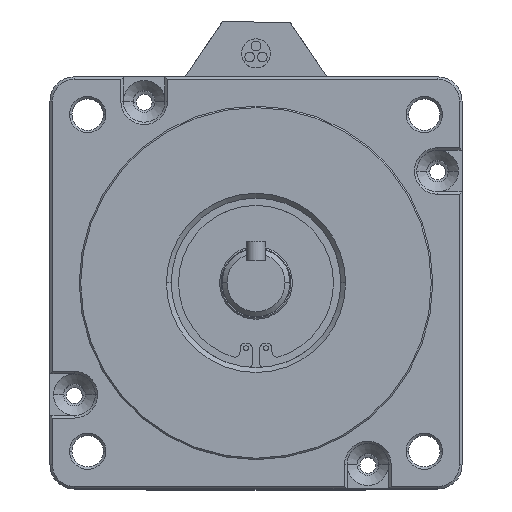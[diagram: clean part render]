
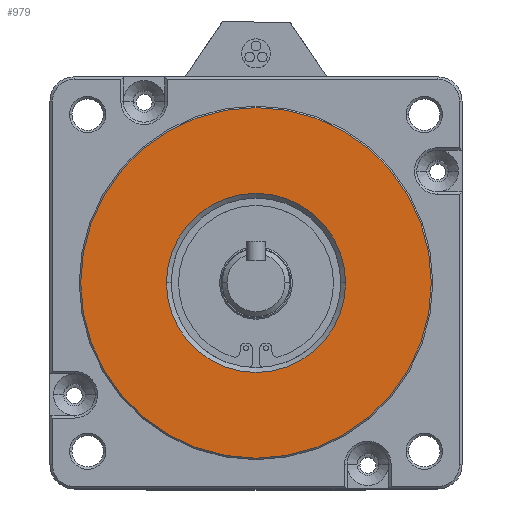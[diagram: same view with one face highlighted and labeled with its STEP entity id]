
A CAD part, top view. The second image highlights one B-rep face of the part: STEP entity #979.
In plain terms, the highlighted planar face has unit normal (0, 0, 1).
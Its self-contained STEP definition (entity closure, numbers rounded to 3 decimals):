
#215 = EDGE_LOOP ( 'NONE', ( #8769, #9285 ) ) ;
#352 = DIRECTION ( 'NONE',  ( 0., 0., 1. ) ) ;
#579 = DIRECTION ( 'NONE',  ( 0., 0., 1. ) ) ;
#874 = ORIENTED_EDGE ( 'NONE', *, *, #10335, .T. ) ;
#979 = ADVANCED_FACE ( 'NONE', ( #3760, #5932 ), #5735, .T. ) ;
#1212 = VERTEX_POINT ( 'NONE', #8930 ) ;
#1823 = VERTEX_POINT ( 'NONE', #2275 ) ;
#2007 = ORIENTED_EDGE ( 'NONE', *, *, #7345, .T. ) ;
#2275 = CARTESIAN_POINT ( 'NONE',  ( -18.5, 0., 12.5 ) ) ;
#2540 = CIRCLE ( 'NONE', #12150, 36.2 ) ;
#3169 = CARTESIAN_POINT ( 'NONE',  ( 0., 0., 12.5 ) ) ;
#3760 = FACE_BOUND ( 'NONE', #215, .T. ) ;
#3924 = CARTESIAN_POINT ( 'NONE',  ( 0., 0., 12.5 ) ) ;
#4111 = DIRECTION ( 'NONE',  ( 1., 0., 0. ) ) ;
#4617 = CARTESIAN_POINT ( 'NONE',  ( 18.5, 0., 12.5 ) ) ;
#4779 = AXIS2_PLACEMENT_3D ( 'NONE', #6142, #579, #7108 ) ;
#4845 = DIRECTION ( 'NONE',  ( 1., 0., 0. ) ) ;
#5565 = CARTESIAN_POINT ( 'NONE',  ( 0., 0., 12.5 ) ) ;
#5596 = VERTEX_POINT ( 'NONE', #4617 ) ;
#5735 = PLANE ( 'NONE',  #6979 ) ;
#5897 = EDGE_LOOP ( 'NONE', ( #2007, #874 ) ) ;
#5921 = CARTESIAN_POINT ( 'NONE',  ( 0., 0., 12.5 ) ) ;
#5932 = FACE_OUTER_BOUND ( 'NONE', #5897, .T. ) ;
#6142 = CARTESIAN_POINT ( 'NONE',  ( 0., 0., 12.5 ) ) ;
#6511 = DIRECTION ( 'NONE',  ( 1., 0., 0. ) ) ;
#6866 = DIRECTION ( 'NONE',  ( 1., 0., 0. ) ) ;
#6979 = AXIS2_PLACEMENT_3D ( 'NONE', #3924, #10471, #4845 ) ;
#7108 = DIRECTION ( 'NONE',  ( 1., 0., 0. ) ) ;
#7345 = EDGE_CURVE ( 'NONE', #7741, #1212, #11088, .T. ) ;
#7741 = VERTEX_POINT ( 'NONE', #10066 ) ;
#8439 = EDGE_CURVE ( 'NONE', #1823, #5596, #9693, .T. ) ;
#8769 = ORIENTED_EDGE ( 'NONE', *, *, #12035, .T. ) ;
#8930 = CARTESIAN_POINT ( 'NONE',  ( 36.2, 0., 12.5 ) ) ;
#9285 = ORIENTED_EDGE ( 'NONE', *, *, #8439, .T. ) ;
#9693 = CIRCLE ( 'NONE', #12097, 18.5 ) ;
#9707 = DIRECTION ( 'NONE',  ( 0., 0., -1. ) ) ;
#10066 = CARTESIAN_POINT ( 'NONE',  ( -36.2, 0., 12.5 ) ) ;
#10334 = AXIS2_PLACEMENT_3D ( 'NONE', #3169, #9707, #4111 ) ;
#10335 = EDGE_CURVE ( 'NONE', #1212, #7741, #2540, .T. ) ;
#10471 = DIRECTION ( 'NONE',  ( 0., 0., 1. ) ) ;
#11088 = CIRCLE ( 'NONE', #4779, 36.2 ) ;
#11266 = CIRCLE ( 'NONE', #10334, 18.5 ) ;
#12035 = EDGE_CURVE ( 'NONE', #5596, #1823, #11266, .T. ) ;
#12097 = AXIS2_PLACEMENT_3D ( 'NONE', #5565, #12134, #6511 ) ;
#12134 = DIRECTION ( 'NONE',  ( 0., 0., -1. ) ) ;
#12150 = AXIS2_PLACEMENT_3D ( 'NONE', #5921, #352, #6866 ) ;
